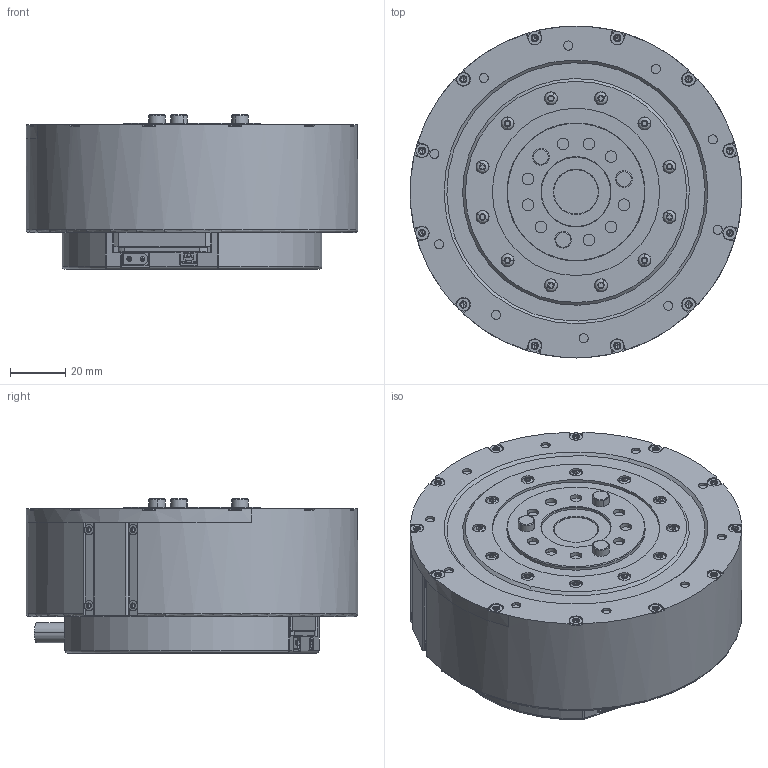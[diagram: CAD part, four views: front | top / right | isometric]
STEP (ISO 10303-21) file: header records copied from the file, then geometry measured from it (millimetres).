
FILE_DESCRIPTION((''),'2;1');
FILE_NAME('3_1_02_120_0002_SW0001','2024-08-28T11:33:59',('zhanglf'),(''),'CREO PARAMETRIC BY PTC INC, 2017110','CREO PARAMETRIC BY PTC INC, 2017110','');
FILE_SCHEMA(('CONFIG_CONTROL_DESIGN'));
Products named in the file (1): 3_1_02_120_0002_SW0001
Bounding box: 120 x 120 x 55.7 mm (x, y, z)
Volume: 522968.7 mm3; surface area: 46853.2 mm2
Topology: 1 solids, 198 shells, 2748 faces, 6577 edges, 4303 vertices
Faces by surface type: cylinder 1108, bspline 872, plane 493, cone 190, torus 55, sphere 22, revolution 8
Entity records: 379964 total; most frequent: CARTESIAN_POINT 324015, ORIENTED_EDGE 13106, DIRECTION 8322, EDGE_CURVE 6553, VERTEX_POINT 4303, B_SPLINE_CURVE_WITH_KNOTS 2977, AXIS2_PLACEMENT_3D 2862, EDGE_LOOP 2854
